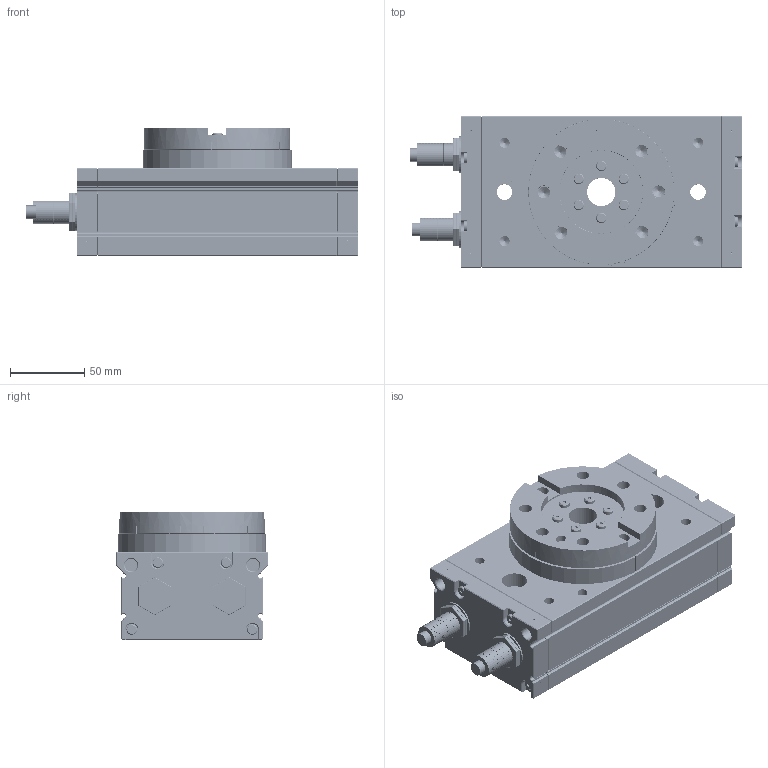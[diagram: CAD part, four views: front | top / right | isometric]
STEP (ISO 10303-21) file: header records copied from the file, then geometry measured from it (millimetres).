
FILE_DESCRIPTION (( 'STEP AP203' ), '1' );
FILE_NAME ('Assemblage gtb 100.STEP', '2013-05-06T08:24:04', ( 'Christophe Gaillard' ), ( 'SGA' ), 'SwSTEP 2.0', 'SolidWorks 2010', '' );
FILE_SCHEMA (( 'CONFIG_CONTROL_DESIGN' ));
Products named in the file (10): Pièce A GTB 100_Default; Disque GTB 100_Default; Boulon GTB 100_Default; Assemblage gtb 100; GTB 100 corp_Default; Pièce B GTB 100_Default; Vis corp 100_Default; Vis pièce A et B GTB 100_Default; Amortisseur GTB 100_Default; Butée en caoutchouc GTB 100_Default
Assembly tree (26 placements, depth 2):
  Assemblage gtb 100
    Vis pièce A et B GTB 100_Default  x8
    Vis corp 100_Default  x6
    GTB 100 corp_Default
    Boulon GTB 100_Default  x4
    Amortisseur GTB 100_Default  x2
    Butée en caoutchouc GTB 100_Default  x2
    Pièce A GTB 100_Default
    Pièce B GTB 100_Default
    Disque GTB 100_Default
Bounding box: 222.99 x 102 x 86 mm (x, y, z)
Volume: 1184344.5 mm3; surface area: 175163.6 mm2
Topology: 26 solids, 26 shells, 18454 faces, 42330 edges, 26157 vertices
Faces by surface type: plane 8855, cylinder 6253, cone 2256, bspline 453, torus 439, sphere 198
Entity records: 180351 total; most frequent: CARTESIAN_POINT 51952, DIRECTION 27613, ORIENTED_EDGE 25560, EDGE_CURVE 12780, AXIS2_PLACEMENT_3D 10612, VERTEX_POINT 7669, LINE 6389, VECTOR 6389
